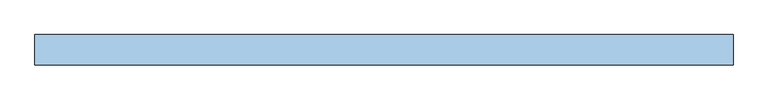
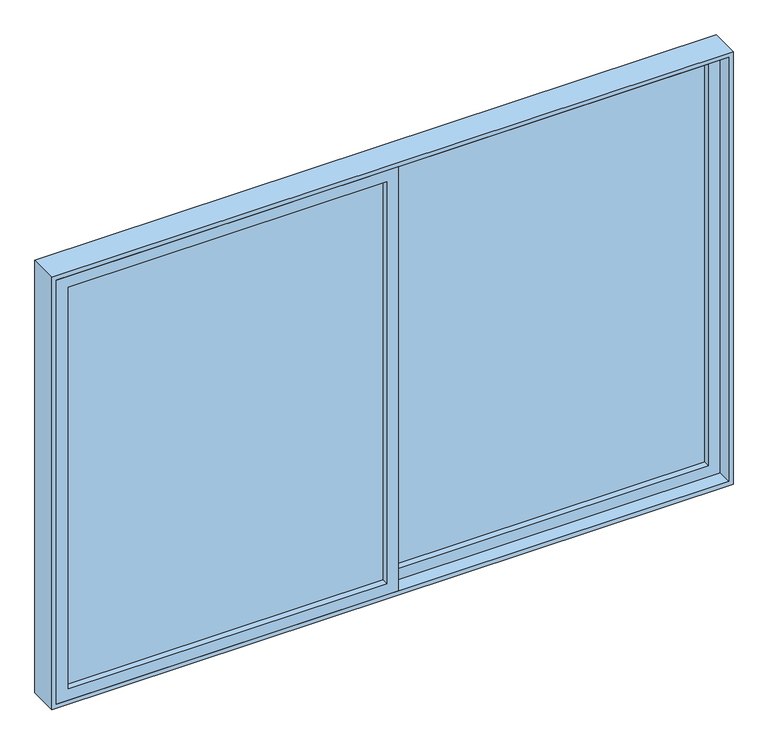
"""IFC4 building model written with IfcOpenShell, lengths in millimetres: window geometry, VENT_ALUM_CORR_2HOJAS_CORRE 1 : VD-20 / CORRE RECAM 1.55 X 2.31."""

from ifc_helpers import new_model, si_unit, frame, origin, place, context, project, spatial, polyline, outline, extrude, source, transform, mapped, element, save


def window_ae2eeb24(model_context):
    return source(origin(), model_context, "Body", "SweptSolid", [
        extrude(outline(polyline([(-20.0, -28.0), (-1100.0, -28.0), (-1100.0, -22.0), (-20.0, -22.0), (-20.0, -28.0)])), frame((0.0, 0.0, 855.0), z_axis=(0.0, 0.0, 1.0), x_axis=(1.0, 0.0, 0.0)), (0.0, 0.0, 1.0), 1440.0),
        extrude(outline(polyline([(815.0, -1140.0), (815.0, 20.0), (2335.0, 20.0), (2335.0, -1140.0), (815.0, -1140.0)]), holes=[polyline([(2295.0, -1100.0), (2295.0, -20.0), (855.0, -20.0), (855.0, -1100.0), (2295.0, -1100.0)])]), frame((0.0, -50.0, 0.0), z_axis=(0.0, 1.0, 0.0), x_axis=(0.0, 0.0, 1.0)), (0.0, 0.0, 1.0), 50.0),
        extrude(outline(polyline([(20.0, 28.0), (1100.0, 28.0), (1100.0, 22.0), (20.0, 22.0), (20.0, 28.0)])), frame((0.0, 0.0, 855.0), z_axis=(0.0, 0.0, 1.0), x_axis=(1.0, 0.0, 0.0)), (0.0, 0.0, 1.0), 1440.0),
        extrude(outline(polyline([(815.0, -20.0), (815.0, 1140.0), (2335.0, 1140.0), (2335.0, -20.0), (815.0, -20.0)]), holes=[polyline([(2295.0, 20.0), (2295.0, 1100.0), (855.0, 1100.0), (855.0, 20.0), (2295.0, 20.0)])]), frame((0.0, 0.0, 0.0), z_axis=(0.0, 1.0, 0.0), x_axis=(0.0, 0.0, 1.0)), (0.0, 0.0, 1.0), 50.0),
        extrude(outline(polyline([(800.0, -1155.0), (800.0, 1155.0), (2350.0, 1155.0), (2350.0, -1155.0), (800.0, -1155.0)]), holes=[polyline([(2335.0, -1140.0), (2335.0, 1140.0), (815.0, 1140.0), (815.0, -1140.0), (2335.0, -1140.0)])]), frame((0.0, -50.0, 0.0), z_axis=(0.0, 1.0, 0.0), x_axis=(0.0, 0.0, 1.0)), (0.0, 0.0, 1.0), 100.0),
    ])


if __name__ == "__main__":
    model = new_model("IFC4")
    model_context = context("Model", 3, world=origin())
    ifc_project = project(units=[si_unit("LENGTHUNIT", "METRE", prefix="MILLI")], contexts=[model_context])
    site = spatial("IfcSite", under=ifc_project)
    building = spatial("IfcBuilding", under=site)
    placement = place(None, origin())
    window_shape = window_ae2eeb24(model_context)
    element("IfcWindow", 1, ObjectType="VENT_ALUM_CORR_2HOJAS_CORRE 1 : VD-20 / CORRE RECAM 1.55 X 2.31", at=placement, inside=building, context=model_context, shape_type="MappedRepresentation", body=[
        mapped(window_shape, transform((0.0, 0.0, 0.0), x_axis=(1.0, 0.0, 0.0), y_axis=(0.0, 1.0, 0.0), z_axis=(0.0, 0.0, 1.0))),
    ])
    save(model, "model.ifc")
